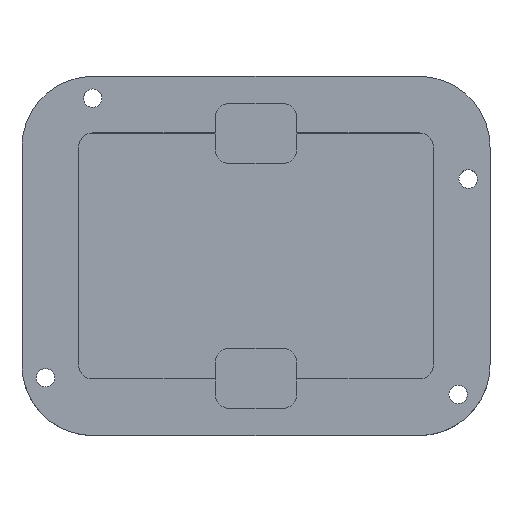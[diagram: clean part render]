
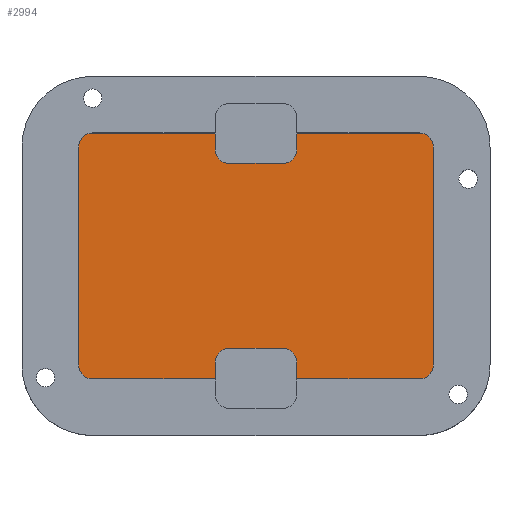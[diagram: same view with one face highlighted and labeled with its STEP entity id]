
A CAD part, top view. The second image highlights one B-rep face of the part: STEP entity #2994.
In plain terms, the highlighted planar face has unit normal (0, 0, 1).
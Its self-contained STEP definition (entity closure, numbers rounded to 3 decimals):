
#415 = PLANE('',#416);
#416 = AXIS2_PLACEMENT_3D('',#417,#418,#419);
#417 = CARTESIAN_POINT('',(0.,2.6,2.));
#418 = DIRECTION('',(0.,1.,0.));
#419 = DIRECTION('',(1.,0.,0.));
#444 = CYLINDRICAL_SURFACE('',#445,2.6);
#445 = AXIS2_PLACEMENT_3D('',#446,#447,#448);
#446 = CARTESIAN_POINT('',(0.,0.,2.));
#447 = DIRECTION('',(0.,0.,-1.));
#448 = DIRECTION('',(-1.,0.,0.));
#472 = PLANE('',#473);
#473 = AXIS2_PLACEMENT_3D('',#474,#475,#476);
#474 = CARTESIAN_POINT('',(-2.6,-40.,2.));
#475 = DIRECTION('',(-1.,0.,0.));
#476 = DIRECTION('',(0.,1.,0.));
#501 = CYLINDRICAL_SURFACE('',#502,2.6);
#502 = AXIS2_PLACEMENT_3D('',#503,#504,#505);
#503 = CARTESIAN_POINT('',(0.,-40.,2.));
#504 = DIRECTION('',(0.,0.,-1.));
#505 = DIRECTION('',(0.,-1.,-0.));
#529 = PLANE('',#530);
#530 = AXIS2_PLACEMENT_3D('',#531,#532,#533);
#531 = CARTESIAN_POINT('',(60.,-42.6,2.));
#532 = DIRECTION('',(0.,-1.,0.));
#533 = DIRECTION('',(-1.,0.,0.));
#723 = CYLINDRICAL_SURFACE('',#724,2.6);
#724 = AXIS2_PLACEMENT_3D('',#725,#726,#727);
#725 = CARTESIAN_POINT('',(60.,-40.,2.));
#726 = DIRECTION('',(0.,0.,-1.));
#727 = DIRECTION('',(1.,0.,0.));
#751 = PLANE('',#752);
#752 = AXIS2_PLACEMENT_3D('',#753,#754,#755);
#753 = CARTESIAN_POINT('',(62.6,0.,2.));
#754 = DIRECTION('',(1.,0.,0.));
#755 = DIRECTION('',(0.,-1.,0.));
#780 = CYLINDRICAL_SURFACE('',#781,2.6);
#781 = AXIS2_PLACEMENT_3D('',#782,#783,#784);
#782 = CARTESIAN_POINT('',(60.,0.,2.));
#783 = DIRECTION('',(0.,0.,-1.));
#784 = DIRECTION('',(0.,1.,0.));
#1550 = EDGE_CURVE('',#1551,#1553,#1555,.T.);
#1551 = VERTEX_POINT('',#1552);
#1552 = CARTESIAN_POINT('',(0.,2.6,2.));
#1553 = VERTEX_POINT('',#1554);
#1554 = CARTESIAN_POINT('',(60.,2.6,2.));
#1555 = SURFACE_CURVE('',#1556,(#1560,#1567),.PCURVE_S1.);
#1556 = LINE('',#1557,#1558);
#1557 = CARTESIAN_POINT('',(0.,2.6,2.));
#1558 = VECTOR('',#1559,1.);
#1559 = DIRECTION('',(1.,0.,0.));
#1560 = PCURVE('',#415,#1561);
#1561 = DEFINITIONAL_REPRESENTATION('',(#1562),#1566);
#1562 = LINE('',#1563,#1564);
#1563 = CARTESIAN_POINT('',(0.,0.));
#1564 = VECTOR('',#1565,1.);
#1565 = DIRECTION('',(1.,0.));
#1566 = ( GEOMETRIC_REPRESENTATION_CONTEXT(2) 
PARAMETRIC_REPRESENTATION_CONTEXT() REPRESENTATION_CONTEXT('2D SPACE',''
  ) );
#1567 = PCURVE('',#1568,#1573);
#1568 = PLANE('',#1569);
#1569 = AXIS2_PLACEMENT_3D('',#1570,#1571,#1572);
#1570 = CARTESIAN_POINT('',(30.,-20.,2.));
#1571 = DIRECTION('',(-0.,-0.,-1.));
#1572 = DIRECTION('',(-1.,0.,0.));
#1573 = DEFINITIONAL_REPRESENTATION('',(#1574),#1578);
#1574 = LINE('',#1575,#1576);
#1575 = CARTESIAN_POINT('',(30.,22.6));
#1576 = VECTOR('',#1577,1.);
#1577 = DIRECTION('',(-1.,0.));
#1578 = ( GEOMETRIC_REPRESENTATION_CONTEXT(2) 
PARAMETRIC_REPRESENTATION_CONTEXT() REPRESENTATION_CONTEXT('2D SPACE',''
  ) );
#1756 = VERTEX_POINT('',#1757);
#1757 = CARTESIAN_POINT('',(-2.6,0.,2.));
#1780 = EDGE_CURVE('',#1756,#1551,#1781,.T.);
#1781 = SURFACE_CURVE('',#1782,(#1787,#1794),.PCURVE_S1.);
#1782 = CIRCLE('',#1783,2.6);
#1783 = AXIS2_PLACEMENT_3D('',#1784,#1785,#1786);
#1784 = CARTESIAN_POINT('',(0.,0.,2.));
#1785 = DIRECTION('',(0.,0.,-1.));
#1786 = DIRECTION('',(-1.,0.,0.));
#1787 = PCURVE('',#444,#1788);
#1788 = DEFINITIONAL_REPRESENTATION('',(#1789),#1793);
#1789 = LINE('',#1790,#1791);
#1790 = CARTESIAN_POINT('',(0.,0.));
#1791 = VECTOR('',#1792,1.);
#1792 = DIRECTION('',(1.,0.));
#1793 = ( GEOMETRIC_REPRESENTATION_CONTEXT(2) 
PARAMETRIC_REPRESENTATION_CONTEXT() REPRESENTATION_CONTEXT('2D SPACE',''
  ) );
#1794 = PCURVE('',#1568,#1795);
#1795 = DEFINITIONAL_REPRESENTATION('',(#1796),#1800);
#1796 = CIRCLE('',#1797,2.6);
#1797 = AXIS2_PLACEMENT_2D('',#1798,#1799);
#1798 = CARTESIAN_POINT('',(30.,20.));
#1799 = DIRECTION('',(1.,0.));
#1800 = ( GEOMETRIC_REPRESENTATION_CONTEXT(2) 
PARAMETRIC_REPRESENTATION_CONTEXT() REPRESENTATION_CONTEXT('2D SPACE',''
  ) );
#1860 = VERTEX_POINT('',#1861);
#1861 = CARTESIAN_POINT('',(-2.6,-40.,2.));
#1884 = EDGE_CURVE('',#1860,#1756,#1885,.T.);
#1885 = SURFACE_CURVE('',#1886,(#1890,#1897),.PCURVE_S1.);
#1886 = LINE('',#1887,#1888);
#1887 = CARTESIAN_POINT('',(-2.6,-40.,2.));
#1888 = VECTOR('',#1889,1.);
#1889 = DIRECTION('',(0.,1.,0.));
#1890 = PCURVE('',#472,#1891);
#1891 = DEFINITIONAL_REPRESENTATION('',(#1892),#1896);
#1892 = LINE('',#1893,#1894);
#1893 = CARTESIAN_POINT('',(0.,0.));
#1894 = VECTOR('',#1895,1.);
#1895 = DIRECTION('',(1.,0.));
#1896 = ( GEOMETRIC_REPRESENTATION_CONTEXT(2) 
PARAMETRIC_REPRESENTATION_CONTEXT() REPRESENTATION_CONTEXT('2D SPACE',''
  ) );
#1897 = PCURVE('',#1568,#1898);
#1898 = DEFINITIONAL_REPRESENTATION('',(#1899),#1903);
#1899 = LINE('',#1900,#1901);
#1900 = CARTESIAN_POINT('',(32.6,-20.));
#1901 = VECTOR('',#1902,1.);
#1902 = DIRECTION('',(0.,1.));
#1903 = ( GEOMETRIC_REPRESENTATION_CONTEXT(2) 
PARAMETRIC_REPRESENTATION_CONTEXT() REPRESENTATION_CONTEXT('2D SPACE',''
  ) );
#1959 = VERTEX_POINT('',#1960);
#1960 = CARTESIAN_POINT('',(0.,-42.6,2.));
#1983 = EDGE_CURVE('',#1959,#1860,#1984,.T.);
#1984 = SURFACE_CURVE('',#1985,(#1990,#1997),.PCURVE_S1.);
#1985 = CIRCLE('',#1986,2.6);
#1986 = AXIS2_PLACEMENT_3D('',#1987,#1988,#1989);
#1987 = CARTESIAN_POINT('',(0.,-40.,2.));
#1988 = DIRECTION('',(0.,0.,-1.));
#1989 = DIRECTION('',(0.,-1.,-0.));
#1990 = PCURVE('',#501,#1991);
#1991 = DEFINITIONAL_REPRESENTATION('',(#1992),#1996);
#1992 = LINE('',#1993,#1994);
#1993 = CARTESIAN_POINT('',(0.,0.));
#1994 = VECTOR('',#1995,1.);
#1995 = DIRECTION('',(1.,0.));
#1996 = ( GEOMETRIC_REPRESENTATION_CONTEXT(2) 
PARAMETRIC_REPRESENTATION_CONTEXT() REPRESENTATION_CONTEXT('2D SPACE',''
  ) );
#1997 = PCURVE('',#1568,#1998);
#1998 = DEFINITIONAL_REPRESENTATION('',(#1999),#2003);
#1999 = CIRCLE('',#2000,2.6);
#2000 = AXIS2_PLACEMENT_2D('',#2001,#2002);
#2001 = CARTESIAN_POINT('',(30.,-20.));
#2002 = DIRECTION('',(0.,-1.));
#2003 = ( GEOMETRIC_REPRESENTATION_CONTEXT(2) 
PARAMETRIC_REPRESENTATION_CONTEXT() REPRESENTATION_CONTEXT('2D SPACE',''
  ) );
#2057 = EDGE_CURVE('',#2058,#1959,#2060,.T.);
#2058 = VERTEX_POINT('',#2059);
#2059 = CARTESIAN_POINT('',(60.,-42.6,2.));
#2060 = SURFACE_CURVE('',#2061,(#2065,#2072),.PCURVE_S1.);
#2061 = LINE('',#2062,#2063);
#2062 = CARTESIAN_POINT('',(60.,-42.6,2.));
#2063 = VECTOR('',#2064,1.);
#2064 = DIRECTION('',(-1.,0.,0.));
#2065 = PCURVE('',#529,#2066);
#2066 = DEFINITIONAL_REPRESENTATION('',(#2067),#2071);
#2067 = LINE('',#2068,#2069);
#2068 = CARTESIAN_POINT('',(0.,-0.));
#2069 = VECTOR('',#2070,1.);
#2070 = DIRECTION('',(1.,0.));
#2071 = ( GEOMETRIC_REPRESENTATION_CONTEXT(2) 
PARAMETRIC_REPRESENTATION_CONTEXT() REPRESENTATION_CONTEXT('2D SPACE',''
  ) );
#2072 = PCURVE('',#1568,#2073);
#2073 = DEFINITIONAL_REPRESENTATION('',(#2074),#2078);
#2074 = LINE('',#2075,#2076);
#2075 = CARTESIAN_POINT('',(-30.,-22.6));
#2076 = VECTOR('',#2077,1.);
#2077 = DIRECTION('',(1.,0.));
#2078 = ( GEOMETRIC_REPRESENTATION_CONTEXT(2) 
PARAMETRIC_REPRESENTATION_CONTEXT() REPRESENTATION_CONTEXT('2D SPACE',''
  ) );
#2468 = VERTEX_POINT('',#2469);
#2469 = CARTESIAN_POINT('',(62.6,0.,2.));
#2490 = EDGE_CURVE('',#1553,#2468,#2491,.T.);
#2491 = SURFACE_CURVE('',#2492,(#2497,#2504),.PCURVE_S1.);
#2492 = CIRCLE('',#2493,2.6);
#2493 = AXIS2_PLACEMENT_3D('',#2494,#2495,#2496);
#2494 = CARTESIAN_POINT('',(60.,0.,2.));
#2495 = DIRECTION('',(0.,0.,-1.));
#2496 = DIRECTION('',(0.,1.,0.));
#2497 = PCURVE('',#780,#2498);
#2498 = DEFINITIONAL_REPRESENTATION('',(#2499),#2503);
#2499 = LINE('',#2500,#2501);
#2500 = CARTESIAN_POINT('',(0.,0.));
#2501 = VECTOR('',#2502,1.);
#2502 = DIRECTION('',(1.,0.));
#2503 = ( GEOMETRIC_REPRESENTATION_CONTEXT(2) 
PARAMETRIC_REPRESENTATION_CONTEXT() REPRESENTATION_CONTEXT('2D SPACE',''
  ) );
#2504 = PCURVE('',#1568,#2505);
#2505 = DEFINITIONAL_REPRESENTATION('',(#2506),#2510);
#2506 = CIRCLE('',#2507,2.6);
#2507 = AXIS2_PLACEMENT_2D('',#2508,#2509);
#2508 = CARTESIAN_POINT('',(-30.,20.));
#2509 = DIRECTION('',(0.,1.));
#2510 = ( GEOMETRIC_REPRESENTATION_CONTEXT(2) 
PARAMETRIC_REPRESENTATION_CONTEXT() REPRESENTATION_CONTEXT('2D SPACE',''
  ) );
#2568 = VERTEX_POINT('',#2569);
#2569 = CARTESIAN_POINT('',(62.6,-40.,2.));
#2590 = EDGE_CURVE('',#2468,#2568,#2591,.T.);
#2591 = SURFACE_CURVE('',#2592,(#2596,#2603),.PCURVE_S1.);
#2592 = LINE('',#2593,#2594);
#2593 = CARTESIAN_POINT('',(62.6,0.,2.));
#2594 = VECTOR('',#2595,1.);
#2595 = DIRECTION('',(0.,-1.,0.));
#2596 = PCURVE('',#751,#2597);
#2597 = DEFINITIONAL_REPRESENTATION('',(#2598),#2602);
#2598 = LINE('',#2599,#2600);
#2599 = CARTESIAN_POINT('',(0.,0.));
#2600 = VECTOR('',#2601,1.);
#2601 = DIRECTION('',(1.,0.));
#2602 = ( GEOMETRIC_REPRESENTATION_CONTEXT(2) 
PARAMETRIC_REPRESENTATION_CONTEXT() REPRESENTATION_CONTEXT('2D SPACE',''
  ) );
#2603 = PCURVE('',#1568,#2604);
#2604 = DEFINITIONAL_REPRESENTATION('',(#2605),#2609);
#2605 = LINE('',#2606,#2607);
#2606 = CARTESIAN_POINT('',(-32.6,20.));
#2607 = VECTOR('',#2608,1.);
#2608 = DIRECTION('',(0.,-1.));
#2609 = ( GEOMETRIC_REPRESENTATION_CONTEXT(2) 
PARAMETRIC_REPRESENTATION_CONTEXT() REPRESENTATION_CONTEXT('2D SPACE',''
  ) );
#2644 = EDGE_CURVE('',#2568,#2058,#2645,.T.);
#2645 = SURFACE_CURVE('',#2646,(#2651,#2658),.PCURVE_S1.);
#2646 = CIRCLE('',#2647,2.6);
#2647 = AXIS2_PLACEMENT_3D('',#2648,#2649,#2650);
#2648 = CARTESIAN_POINT('',(60.,-40.,2.));
#2649 = DIRECTION('',(0.,0.,-1.));
#2650 = DIRECTION('',(1.,0.,0.));
#2651 = PCURVE('',#723,#2652);
#2652 = DEFINITIONAL_REPRESENTATION('',(#2653),#2657);
#2653 = LINE('',#2654,#2655);
#2654 = CARTESIAN_POINT('',(0.,0.));
#2655 = VECTOR('',#2656,1.);
#2656 = DIRECTION('',(1.,0.));
#2657 = ( GEOMETRIC_REPRESENTATION_CONTEXT(2) 
PARAMETRIC_REPRESENTATION_CONTEXT() REPRESENTATION_CONTEXT('2D SPACE',''
  ) );
#2658 = PCURVE('',#1568,#2659);
#2659 = DEFINITIONAL_REPRESENTATION('',(#2660),#2664);
#2660 = CIRCLE('',#2661,2.6);
#2661 = AXIS2_PLACEMENT_2D('',#2662,#2663);
#2662 = CARTESIAN_POINT('',(-30.,-20.));
#2663 = DIRECTION('',(-1.,0.));
#2664 = ( GEOMETRIC_REPRESENTATION_CONTEXT(2) 
PARAMETRIC_REPRESENTATION_CONTEXT() REPRESENTATION_CONTEXT('2D SPACE',''
  ) );
#2994 = ADVANCED_FACE('',(#2995),#1568,.F.);
#2995 = FACE_BOUND('',#2996,.F.);
#2996 = EDGE_LOOP('',(#2997,#2998,#2999,#3000,#3001,#3002,#3003,#3004));
#2997 = ORIENTED_EDGE('',*,*,#1780,.T.);
#2998 = ORIENTED_EDGE('',*,*,#1550,.T.);
#2999 = ORIENTED_EDGE('',*,*,#2490,.T.);
#3000 = ORIENTED_EDGE('',*,*,#2590,.T.);
#3001 = ORIENTED_EDGE('',*,*,#2644,.T.);
#3002 = ORIENTED_EDGE('',*,*,#2057,.T.);
#3003 = ORIENTED_EDGE('',*,*,#1983,.T.);
#3004 = ORIENTED_EDGE('',*,*,#1884,.T.);
